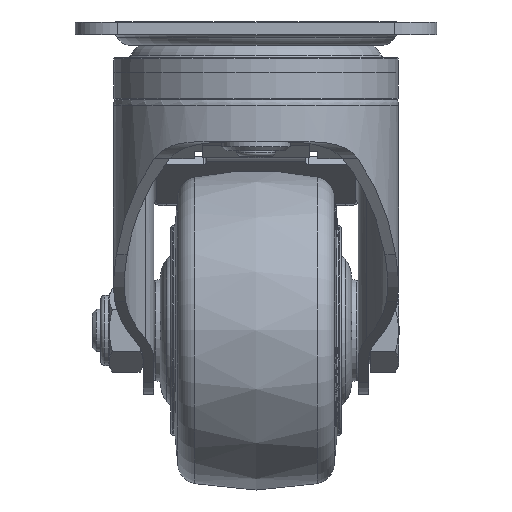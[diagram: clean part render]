
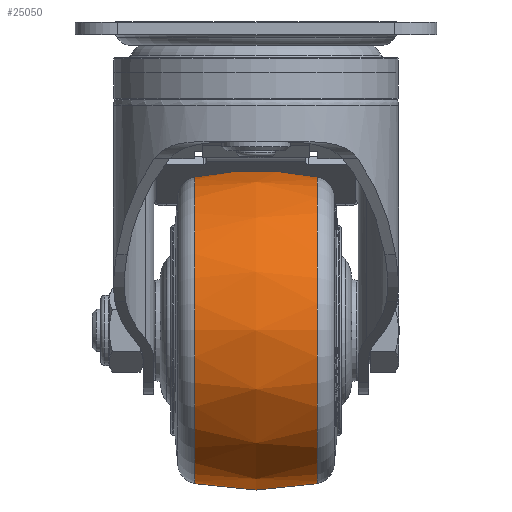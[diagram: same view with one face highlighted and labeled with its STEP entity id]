
A CAD part, left-side view. The second image highlights one B-rep face of the part: STEP entity #25050.
In plain terms, the highlighted free-form (B-spline) face has degree [2, 2] with [3, 9] control points.
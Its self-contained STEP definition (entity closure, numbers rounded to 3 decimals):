
#64=(
BOUNDED_SURFACE()
B_SPLINE_SURFACE(2,2,((#39537,#39538,#39539,#39540,#39541,#39542,#39543,
#39544,#39545),(#39546,#39547,#39548,#39549,#39550,#39551,#39552,#39553,
#39554),(#39555,#39556,#39557,#39558,#39559,#39560,#39561,#39562,#39563)),
 .UNSPECIFIED.,.F.,.T.,.F.)
B_SPLINE_SURFACE_WITH_KNOTS((3,3),(3,2,2,2,3),(-0.208,0.208),
(-3.142,-1.571,0.,1.571,3.142),
 .UNSPECIFIED.)
GEOMETRIC_REPRESENTATION_ITEM()
RATIONAL_B_SPLINE_SURFACE(((1.,0.707,1.,0.707,1.,
0.707,1.,0.707,1.),(0.978,0.692,
0.978,0.692,0.978,0.692,
0.978,0.692,0.978),(1.,0.707,
1.,0.707,1.,0.707,1.,0.707,1.)))
REPRESENTATION_ITEM('')
SURFACE()
);
#7202=FACE_OUTER_BOUND('',#8712,.T.);
#8712=EDGE_LOOP('',(#19062,#19063,#19064,#19065));
#9879=CIRCLE('',#26406,35.992);
#9898=CIRCLE('',#26434,35.992);
#9900=CIRCLE('',#26436,70.);
#11130=VERTEX_POINT('',#39487);
#11145=VERTEX_POINT('',#39534);
#14034=EDGE_CURVE('',#11130,#11130,#9879,.T.);
#14056=EDGE_CURVE('',#11145,#11145,#9898,.T.);
#14058=EDGE_CURVE('',#11130,#11145,#9900,.T.);
#19062=ORIENTED_EDGE('',*,*,#14034,.F.);
#19063=ORIENTED_EDGE('',*,*,#14058,.T.);
#19064=ORIENTED_EDGE('',*,*,#14056,.T.);
#19065=ORIENTED_EDGE('',*,*,#14058,.F.);
#25050=ADVANCED_FACE('',(#7202),#64,.F.);
#26406=AXIS2_PLACEMENT_3D('',#39489,#28643,#28644);
#26434=AXIS2_PLACEMENT_3D('',#39535,#28702,#28703);
#26436=AXIS2_PLACEMENT_3D('',#39564,#28706,#28707);
#28643=DIRECTION('center_axis',(0.,-1.,0.));
#28644=DIRECTION('ref_axis',(0.,0.,-1.));
#28702=DIRECTION('center_axis',(0.,-1.,0.));
#28703=DIRECTION('ref_axis',(0.,0.,-1.));
#28706=DIRECTION('center_axis',(-1.,0.,0.));
#28707=DIRECTION('ref_axis',(0.,0.,
1.));
#39487=CARTESIAN_POINT('',(40.,-14.451,-35.308));
#39489=CARTESIAN_POINT('Origin',(40.,-14.451,-71.3));
#39534=CARTESIAN_POINT('',(40.,14.451,-35.308));
#39535=CARTESIAN_POINT('Origin',(40.,14.451,-71.3));
#39537=CARTESIAN_POINT('Ctrl Pts',(40.,14.451,-35.308));
#39538=CARTESIAN_POINT('Ctrl Pts',(4.008,14.451,-35.308));
#39539=CARTESIAN_POINT('Ctrl Pts',(4.008,14.451,-71.3));
#39540=CARTESIAN_POINT('Ctrl Pts',(4.008,14.451,-107.292));
#39541=CARTESIAN_POINT('Ctrl Pts',(40.,14.451,-107.292));
#39542=CARTESIAN_POINT('Ctrl Pts',(75.992,14.451,-107.292));
#39543=CARTESIAN_POINT('Ctrl Pts',(75.992,14.451,-71.3));
#39544=CARTESIAN_POINT('Ctrl Pts',(75.992,14.451,-35.308));
#39545=CARTESIAN_POINT('Ctrl Pts',(40.,14.451,-35.308));
#39546=CARTESIAN_POINT('Ctrl Pts',(40.,0.,
-32.259));
#39547=CARTESIAN_POINT('Ctrl Pts',(0.959,0.,
-32.259));
#39548=CARTESIAN_POINT('Ctrl Pts',(0.959,0.,
-71.3));
#39549=CARTESIAN_POINT('Ctrl Pts',(0.959,0.,
-110.341));
#39550=CARTESIAN_POINT('Ctrl Pts',(40.,0.,
-110.341));
#39551=CARTESIAN_POINT('Ctrl Pts',(79.041,0.,
-110.341));
#39552=CARTESIAN_POINT('Ctrl Pts',(79.041,0.,
-71.3));
#39553=CARTESIAN_POINT('Ctrl Pts',(79.041,0.,
-32.259));
#39554=CARTESIAN_POINT('Ctrl Pts',(40.,0.,
-32.259));
#39555=CARTESIAN_POINT('Ctrl Pts',(40.,-14.451,-35.308));
#39556=CARTESIAN_POINT('Ctrl Pts',(4.008,-14.451,-35.308));
#39557=CARTESIAN_POINT('Ctrl Pts',(4.008,-14.451,-71.3));
#39558=CARTESIAN_POINT('Ctrl Pts',(4.008,-14.451,-107.292));
#39559=CARTESIAN_POINT('Ctrl Pts',(40.,-14.451,-107.292));
#39560=CARTESIAN_POINT('Ctrl Pts',(75.992,-14.451,-107.292));
#39561=CARTESIAN_POINT('Ctrl Pts',(75.992,-14.451,-71.3));
#39562=CARTESIAN_POINT('Ctrl Pts',(75.992,-14.451,-35.308));
#39563=CARTESIAN_POINT('Ctrl Pts',(40.,-14.451,-35.308));
#39564=CARTESIAN_POINT('Origin',(40.,0.,
-103.8));
